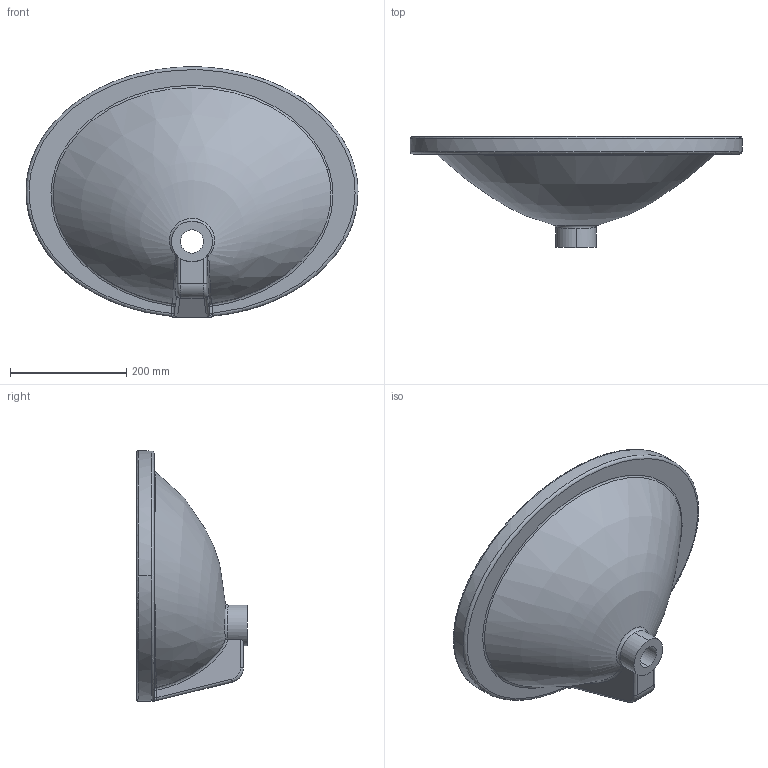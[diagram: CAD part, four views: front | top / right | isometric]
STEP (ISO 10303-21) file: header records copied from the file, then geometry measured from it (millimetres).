
FILE_DESCRIPTION (( 'STEP AP203' ), '1' );
FILE_NAME ('TP216.STEP', '2022-04-20T12:20:37', ( '' ), ( '' ), 'SwSTEP 2.0', 'SolidWorks 2021', '' );
FILE_SCHEMA (( 'CONFIG_CONTROL_DESIGN' ));
Length unit declared in the file: millimetre
Products named in the file (1): TP216
Bounding box: 570 x 190 x 429.92 mm (x, y, z)
Volume: 4111330.1 mm3; surface area: 566708.2 mm2
Topology: 2 solids, 2 shells, 84 faces, 220 edges, 139 vertices
Faces by surface type: bspline 36, plane 25, cylinder 19, cone 2, sphere 2
Entity records: 21826 total; most frequent: CARTESIAN_POINT 19995, ORIENTED_EDGE 436, DIRECTION 271, EDGE_CURVE 218, VERTEX_POINT 139, AXIS2_PLACEMENT_3D 105, EDGE_LOOP 89, B_SPLINE_CURVE_WITH_KNOTS 86
